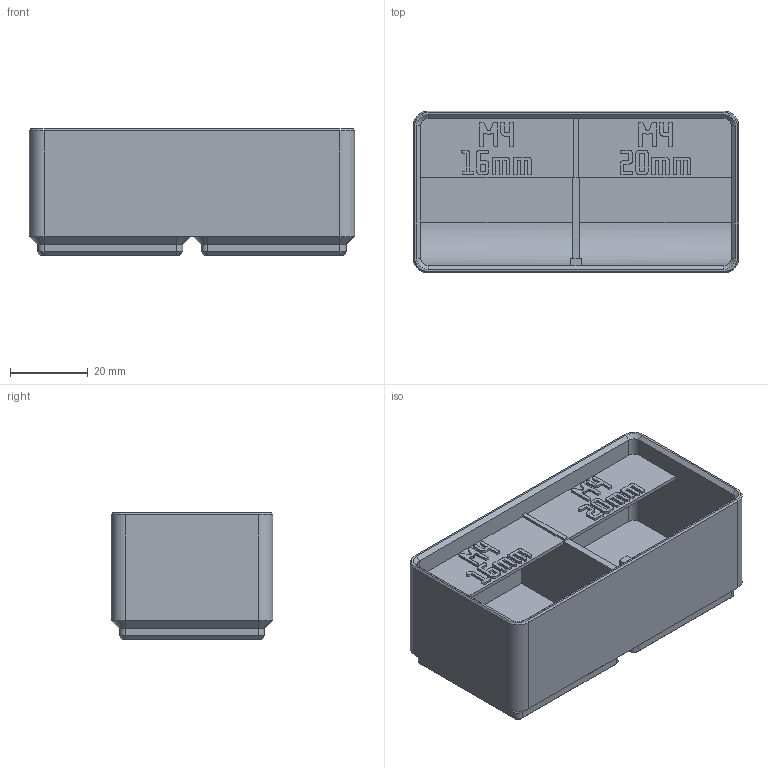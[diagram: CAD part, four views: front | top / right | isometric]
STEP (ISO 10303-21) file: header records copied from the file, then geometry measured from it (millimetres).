
FILE_DESCRIPTION(('Open CASCADE Model'),'2;1');
FILE_NAME('Open CASCADE Shape Model','2026-11-03T16:32:06',('Author'),( 'Open CASCADE'),'Open CASCADE STEP processor 8.0','build123d', 'Unknown');
FILE_SCHEMA(('AUTOMOTIVE_DESIGN { 1 0 10303 214 1 1 1 1 }'));
Products named in the file (1): COMPOUND
Bounding box: 83.5 x 41.5 x 32.4 mm (x, y, z)
Volume: 42517.6 mm3; surface area: 22971.7 mm2
Topology: 1 solids, 1 shells, 1221 faces, 3548 edges, 2344 vertices
Faces by surface type: plane 1177, cone 24, cylinder 20
Entity records: 83444 total; most frequent: CARTESIAN_POINT 16928, DIRECTION 10752, LINE 8170, VECTOR 8170, ORIENTED_EDGE 7096, PCURVE 7096, DEFINITIONAL_REPRESENTATION 7096, EDGE_CURVE 3548
